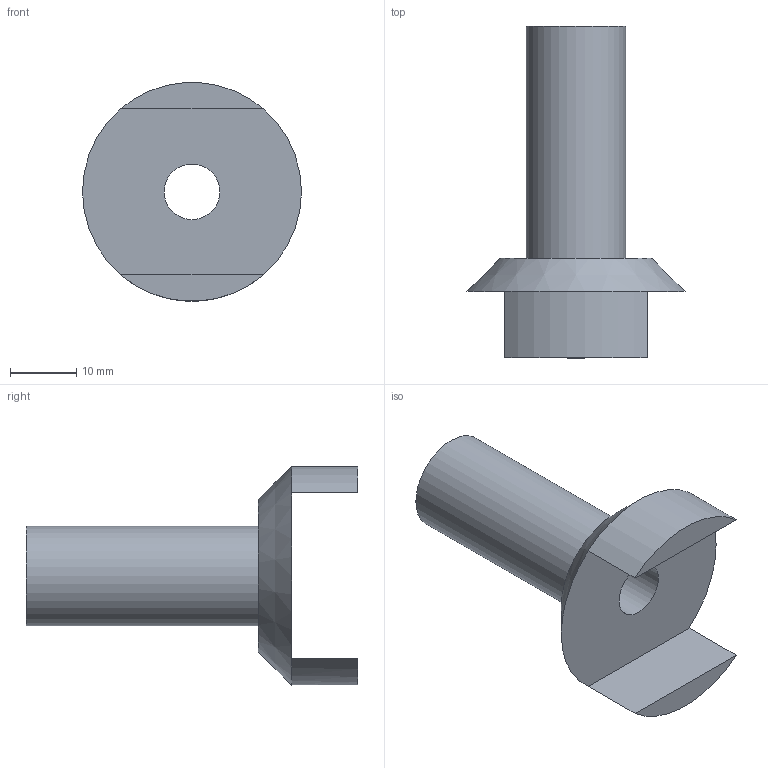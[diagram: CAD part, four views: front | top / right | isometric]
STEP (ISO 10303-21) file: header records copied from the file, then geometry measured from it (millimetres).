
FILE_DESCRIPTION( ( 'Unknown' ), '1' );
FILE_NAME( 'F:/navkite transat/construction/2016/3D ET ASSEMBLAGES/desal/DES 04.stp', 'Unknown', ( 'GMA' ), ( 'Unknown' ), 'XStep 1.0', 'Unknown', ' ' );
FILE_SCHEMA( ( 'automotive_design' ) );
Length unit declared in the file: millimetre
Products named in the file (1): 1
Bounding box: 33 x 50 x 32.95 mm (x, y, z)
Volume: 8272.4 mm3; surface area: 5384.7 mm2
Topology: 1 solids, 1 shells, 12 faces, 23 edges, 14 vertices
Faces by surface type: plane 7, cylinder 4, cone 1
Full cylindrical faces by diameter (mm): 8.376 x1, 15 x1
Entity records: 398 total; most frequent: DIRECTION 56, CARTESIAN_POINT 45, ORIENTED_EDGE 38, AXIS2_PLACEMENT_3D 24, EDGE_CURVE 19, EDGE_LOOP 18, FACE_OUTER_BOUND 14, VERTEX_POINT 13
